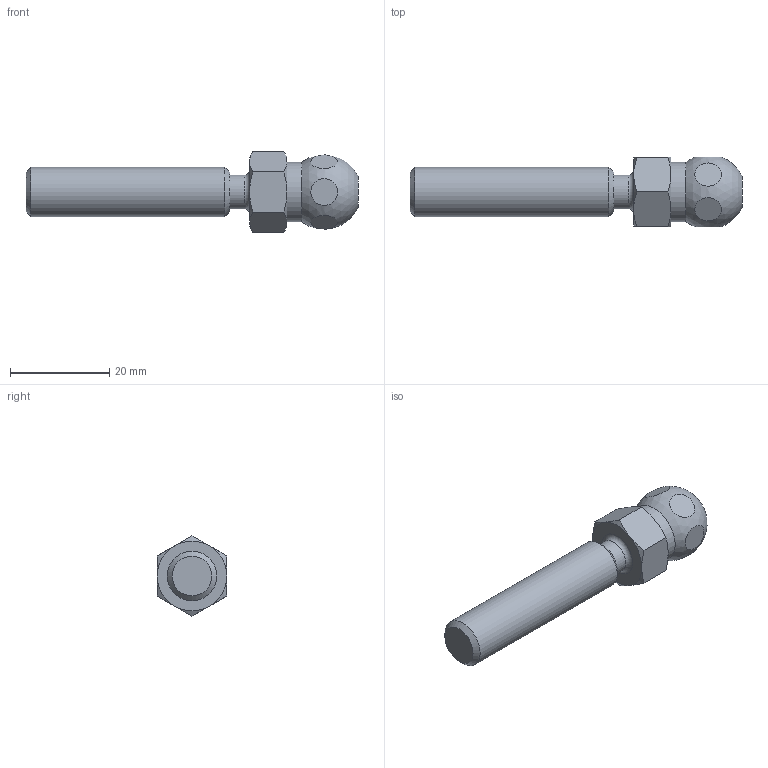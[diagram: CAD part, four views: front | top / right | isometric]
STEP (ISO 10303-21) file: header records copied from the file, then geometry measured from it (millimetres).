
FILE_DESCRIPTION(('STEP AP214'), '1');
FILE_NAME('A00020.110045 _ A00020 Âèíòû ñ ãàéêîé äëÿ îñíîâàíèé øàðíèðíûõ îïîð', '', ('UNSPECIFIED'), ('UNSPECIFIED'), 'C3D Converter', 'C3D Toolkit', '');
FILE_SCHEMA(('AUTOMOTIVE_DESIGN { 1 0 10303 214 3 1 1}'));
Length unit declared in the file: millimetre
Products named in the file (1): A00020.110045
Bounding box: 66.8 x 14 x 16.17 mm (x, y, z)
Volume: 6485 mm3; surface area: 2656.4 mm2
Topology: 1 solids, 1 shells, 35 faces, 66 edges, 41 vertices
Faces by surface type: plane 17, cone 13, cylinder 3, sphere 1, torus 1
Full cylindrical faces by diameter (mm): 6.8 x1, 10 x1, 12 x1
Entity records: 1743 total; most frequent: CARTESIAN_POINT 772, DIRECTION 136, ORIENTED_EDGE 116, AXIS2_PLACEMENT_3D 65, EDGE_CURVE 58, EDGE_LOOP 51, VERTEX_POINT 41, FACE_BOUND 39
